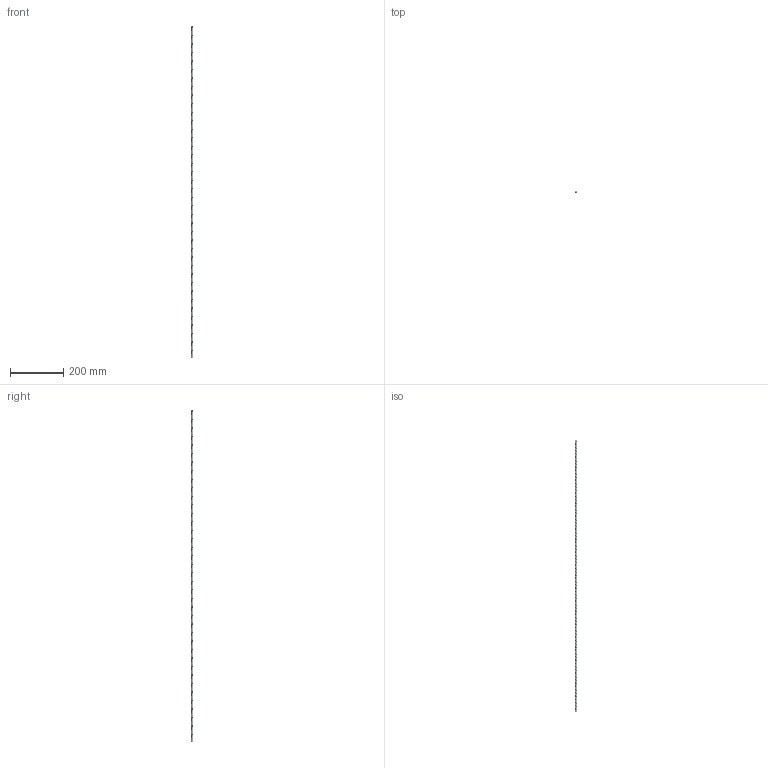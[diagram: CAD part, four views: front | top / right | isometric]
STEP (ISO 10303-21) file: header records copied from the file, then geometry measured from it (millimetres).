
FILE_DESCRIPTION (( 'STEP AP203' ), '1' );
FILE_NAME ('3501-0804-1250.STEP', '2018-05-11T21:56:09', ( '' ), ( '' ), 'SwSTEP 2.0', 'SolidWorks 2016', '' );
FILE_SCHEMA (( 'CONFIG_CONTROL_DESIGN' ));
Length unit declared in the file: millimetre
Products named in the file (1): 3501-0804-1250
Bounding box: 8 x 8 x 1250 mm (x, y, z)
Volume: 46795.7 mm3; surface area: 45305.5 mm2
Topology: 1 solids, 1 shells, 1278 faces, 3828 edges, 2552 vertices
Faces by surface type: cylinder 1254, bspline 12, cone 10, plane 2
Entity records: 137305 total; most frequent: CARTESIAN_POINT 110417, ORIENTED_EDGE 7656, EDGE_CURVE 3828, DIRECTION 3822, VERTEX_POINT 2552, AXIS2_PLACEMENT_3D 1285, EDGE_LOOP 1278, FACE_OUTER_BOUND 1278
